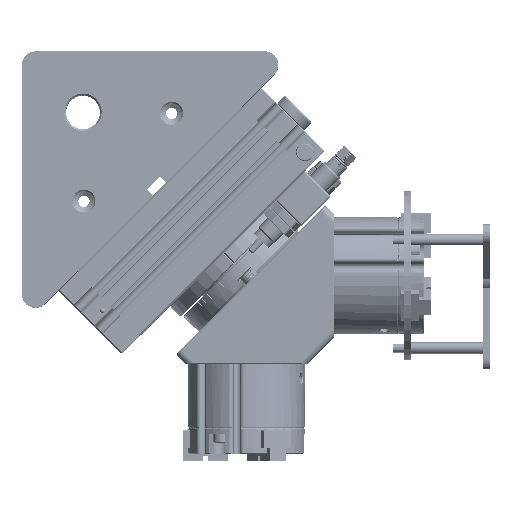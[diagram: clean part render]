
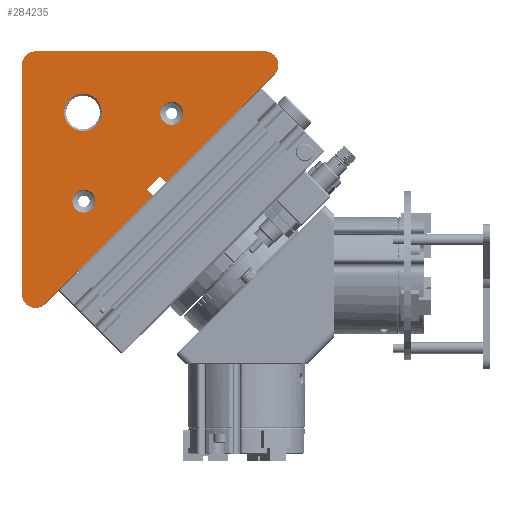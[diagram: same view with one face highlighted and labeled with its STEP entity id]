
A CAD part, top view. The second image highlights one B-rep face of the part: STEP entity #284235.
In plain terms, the highlighted planar face has unit normal (0, 0, 1).
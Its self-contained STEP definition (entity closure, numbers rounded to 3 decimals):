
#4762 = VERTEX_POINT ( 'NONE', #241218 ) ;
#8460 = ORIENTED_EDGE ( 'NONE', *, *, #31495, .T. ) ;
#8871 = VERTEX_POINT ( 'NONE', #225669 ) ;
#15241 = DIRECTION ( 'NONE',  ( -1., 0., 0. ) ) ;
#15378 = EDGE_CURVE ( 'NONE', #86031, #220438, #175074, .T. ) ;
#15417 = EDGE_CURVE ( 'NONE', #4762, #144353, #288029, .T. ) ;
#19074 = ORIENTED_EDGE ( 'NONE', *, *, #255460, .F. ) ;
#19131 = EDGE_CURVE ( 'NONE', #283635, #4762, #87533, .T. ) ;
#21474 = CARTESIAN_POINT ( 'NONE',  ( -113.485, 43.676, 1035. ) ) ;
#22587 = VERTEX_POINT ( 'NONE', #231811 ) ;
#23734 = DIRECTION ( 'NONE',  ( 0., 1., 0. ) ) ;
#24812 = CIRCLE ( 'NONE', #206723, 5.1 ) ;
#31495 = EDGE_CURVE ( 'NONE', #68292, #139739, #107208, .T. ) ;
#32216 = VECTOR ( 'NONE', #15241, 1000. ) ;
#32809 = CARTESIAN_POINT ( 'NONE',  ( -107.729, 49.432, 1035. ) ) ;
#35714 = DIRECTION ( 'NONE',  ( 0., 0., -1. ) ) ;
#35818 = VECTOR ( 'NONE', #112830, 1000. ) ;
#36669 = DIRECTION ( 'NONE',  ( 0., -1., 0. ) ) ;
#38628 = CARTESIAN_POINT ( 'NONE',  ( -171.646, 0., 1035. ) ) ;
#38637 = EDGE_LOOP ( 'NONE', ( #269370, #107997 ) ) ;
#39798 = CIRCLE ( 'NONE', #108786, 5.1 ) ;
#41000 = CARTESIAN_POINT ( 'NONE',  ( -144.195, 41.251, 1035. ) ) ;
#41929 = EDGE_CURVE ( 'NONE', #89605, #68292, #302098, .T. ) ;
#42402 = AXIS2_PLACEMENT_3D ( 'NONE', #271676, #133103, #291734 ) ;
#46675 = VECTOR ( 'NONE', #63064, 1000. ) ;
#47155 = FACE_BOUND ( 'NONE', #294731, .T. ) ;
#48817 = ORIENTED_EDGE ( 'NONE', *, *, #118070, .T. ) ;
#49645 = CARTESIAN_POINT ( 'NONE',  ( -144.195, 36.151, 1035. ) ) ;
#51164 = EDGE_LOOP ( 'NONE', ( #163300, #19074 ) ) ;
#51529 = CIRCLE ( 'NONE', #90876, 8.3 ) ;
#57163 = EDGE_CURVE ( 'NONE', #271919, #161718, #179628, .T. ) ;
#58001 = CARTESIAN_POINT ( 'NONE',  ( -107.729, 49.432, 1035. ) ) ;
#61226 = DIRECTION ( 'NONE',  ( 0., -1., 0. ) ) ;
#63039 = DIRECTION ( 'NONE',  ( 0., 0., 1. ) ) ;
#63064 = DIRECTION ( 'NONE',  ( 0.707, 0.707, 0. ) ) ;
#66804 = EDGE_CURVE ( 'NONE', #220438, #283496, #295478, .T. ) ;
#67610 = CARTESIAN_POINT ( 'NONE',  ( -161.404, -4.243, 1035. ) ) ;
#68292 = VERTEX_POINT ( 'NONE', #32809 ) ;
#70072 = CARTESIAN_POINT ( 'NONE',  ( -59.81, 97.351, 1035. ) ) ;
#76709 = AXIS2_PLACEMENT_3D ( 'NONE', #256163, #253138, #23734 ) ;
#81354 = DIRECTION ( 'NONE',  ( 0., -1., 0. ) ) ;
#81445 = CIRCLE ( 'NONE', #120495, 8.3 ) ;
#84618 = DIRECTION ( 'NONE',  ( 0., -1., 0. ) ) ;
#86031 = VERTEX_POINT ( 'NONE', #114392 ) ;
#87533 = LINE ( 'NONE', #161299, #32216 ) ;
#87641 = CARTESIAN_POINT ( 'NONE',  ( -144.195, 41.251, 1035. ) ) ;
#87764 = DIRECTION ( 'NONE',  ( -0.707, 0.707, 0. ) ) ;
#89605 = VERTEX_POINT ( 'NONE', #162848 ) ;
#90333 = CARTESIAN_POINT ( 'NONE',  ( -64.053, 101.593, 1035. ) ) ;
#90876 = AXIS2_PLACEMENT_3D ( 'NONE', #198293, #105950, #36669 ) ;
#91257 = CARTESIAN_POINT ( 'NONE',  ( -110.557, 52.26, 1035. ) ) ;
#93709 = ORIENTED_EDGE ( 'NONE', *, *, #100566, .T. ) ;
#96831 = CARTESIAN_POINT ( 'NONE',  ( -64.053, 107.593, 1035. ) ) ;
#100566 = EDGE_CURVE ( 'NONE', #257043, #89605, #294440, .T. ) ;
#102410 = VECTOR ( 'NONE', #87764, 1000. ) ;
#102595 = ORIENTED_EDGE ( 'NONE', *, *, #301938, .T. ) ;
#103679 = CARTESIAN_POINT ( 'NONE',  ( -110.557, 52.26, 1035. ) ) ;
#105950 = DIRECTION ( 'NONE',  ( 0., 0., -1. ) ) ;
#107208 = LINE ( 'NONE', #58001, #265647 ) ;
#107410 = DIRECTION ( 'NONE',  ( 0., 0., 1. ) ) ;
#107997 = ORIENTED_EDGE ( 'NONE', *, *, #57163, .F. ) ;
#108542 = CARTESIAN_POINT ( 'NONE',  ( -64.053, 101.593, 1035. ) ) ;
#108786 = AXIS2_PLACEMENT_3D ( 'NONE', #178213, #275143, #81354 ) ;
#109399 = DIRECTION ( 'NONE',  ( 0., -1., 0. ) ) ;
#109795 = VERTEX_POINT ( 'NONE', #199733 ) ;
#112830 = DIRECTION ( 'NONE',  ( 0.707, -0.707, 0. ) ) ;
#114392 = CARTESIAN_POINT ( 'NONE',  ( -171.646, 0., 1035. ) ) ;
#116469 = DIRECTION ( 'NONE',  ( 0., 0., 1. ) ) ;
#117971 = PLANE ( 'NONE',  #298655 ) ;
#118070 = EDGE_CURVE ( 'NONE', #283496, #257043, #183116, .T. ) ;
#120495 = AXIS2_PLACEMENT_3D ( 'NONE', #175749, #35714, #223477 ) ;
#124366 = ORIENTED_EDGE ( 'NONE', *, *, #253501, .T. ) ;
#133103 = DIRECTION ( 'NONE',  ( 0., 0., 1. ) ) ;
#133411 = CARTESIAN_POINT ( 'NONE',  ( -144.195, 46.351, 1035. ) ) ;
#134419 = EDGE_LOOP ( 'NONE', ( #48817, #93709, #287332, #8460, #124366, #251172, #190018, #102595, #290838, #152873 ) ) ;
#139739 = VERTEX_POINT ( 'NONE', #70072 ) ;
#144353 = VERTEX_POINT ( 'NONE', #149006 ) ;
#147410 = CIRCLE ( 'NONE', #186762, 6. ) ;
#149006 = CARTESIAN_POINT ( 'NONE',  ( -171.646, 101.593, 1035. ) ) ;
#150242 = VECTOR ( 'NONE', #242222, 1000. ) ;
#152873 = ORIENTED_EDGE ( 'NONE', *, *, #66804, .T. ) ;
#155031 = EDGE_CURVE ( 'NONE', #256000, #109795, #210907, .T. ) ;
#158265 = EDGE_CURVE ( 'NONE', #161718, #271919, #24812, .T. ) ;
#161066 = DIRECTION ( 'NONE',  ( 1., 0., 0. ) ) ;
#161299 = CARTESIAN_POINT ( 'NONE',  ( -64.053, 107.593, 1035. ) ) ;
#161718 = VERTEX_POINT ( 'NONE', #49645 ) ;
#162848 = CARTESIAN_POINT ( 'NONE',  ( -110.557, 52.26, 1035. ) ) ;
#163300 = ORIENTED_EDGE ( 'NONE', *, *, #155031, .F. ) ;
#167026 = CARTESIAN_POINT ( 'NONE',  ( -105.304, 75.042, 1035. ) ) ;
#174269 = CARTESIAN_POINT ( 'NONE',  ( -116.313, 46.504, 1035. ) ) ;
#175074 = CIRCLE ( 'NONE', #42402, 6. ) ;
#175749 = CARTESIAN_POINT ( 'NONE',  ( -144.646, 80.593, 1035. ) ) ;
#178213 = CARTESIAN_POINT ( 'NONE',  ( -105.304, 80.142, 1035. ) ) ;
#179628 = CIRCLE ( 'NONE', #218996, 5.1 ) ;
#183116 = LINE ( 'NONE', #229337, #102410 ) ;
#186762 = AXIS2_PLACEMENT_3D ( 'NONE', #108542, #202397, #273181 ) ;
#187116 = DIRECTION ( 'NONE',  ( 0., -1., 0. ) ) ;
#190018 = ORIENTED_EDGE ( 'NONE', *, *, #15417, .T. ) ;
#198293 = CARTESIAN_POINT ( 'NONE',  ( -144.646, 80.593, 1035. ) ) ;
#199037 = VECTOR ( 'NONE', #109399, 1000. ) ;
#199733 = CARTESIAN_POINT ( 'NONE',  ( -105.304, 85.242, 1035. ) ) ;
#201057 = DIRECTION ( 'NONE',  ( 0.707, 0.707, 0. ) ) ;
#201260 = CARTESIAN_POINT ( 'NONE',  ( -105.304, 80.142, 1035. ) ) ;
#202397 = DIRECTION ( 'NONE',  ( 0., 0., 1. ) ) ;
#203263 = LINE ( 'NONE', #38628, #199037 ) ;
#206723 = AXIS2_PLACEMENT_3D ( 'NONE', #41000, #277969, #187116 ) ;
#209104 = EDGE_CURVE ( 'NONE', #22587, #8871, #81445, .T. ) ;
#210907 = CIRCLE ( 'NONE', #304320, 5.1 ) ;
#211848 = FACE_BOUND ( 'NONE', #38637, .T. ) ;
#218996 = AXIS2_PLACEMENT_3D ( 'NONE', #87641, #63039, #84618 ) ;
#220438 = VERTEX_POINT ( 'NONE', #291960 ) ;
#223477 = DIRECTION ( 'NONE',  ( 0., -1., 0. ) ) ;
#225669 = CARTESIAN_POINT ( 'NONE',  ( -144.646, 72.293, 1035. ) ) ;
#229337 = CARTESIAN_POINT ( 'NONE',  ( -113.485, 43.676, 1035. ) ) ;
#231811 = CARTESIAN_POINT ( 'NONE',  ( -144.646, 88.893, 1035. ) ) ;
#234942 = FACE_BOUND ( 'NONE', #51164, .T. ) ;
#236464 = FACE_OUTER_BOUND ( 'NONE', #134419, .T. ) ;
#241218 = CARTESIAN_POINT ( 'NONE',  ( -165.646, 107.593, 1035. ) ) ;
#242222 = DIRECTION ( 'NONE',  ( 0.707, 0.707, 0. ) ) ;
#251172 = ORIENTED_EDGE ( 'NONE', *, *, #19131, .T. ) ;
#253138 = DIRECTION ( 'NONE',  ( 0., 0., 1. ) ) ;
#253501 = EDGE_CURVE ( 'NONE', #139739, #283635, #147410, .T. ) ;
#255460 = EDGE_CURVE ( 'NONE', #109795, #256000, #39798, .T. ) ;
#256000 = VERTEX_POINT ( 'NONE', #167026 ) ;
#256163 = CARTESIAN_POINT ( 'NONE',  ( -165.646, 101.593, 1035. ) ) ;
#257043 = VERTEX_POINT ( 'NONE', #174269 ) ;
#265647 = VECTOR ( 'NONE', #201057, 1000. ) ;
#269370 = ORIENTED_EDGE ( 'NONE', *, *, #158265, .F. ) ;
#271676 = CARTESIAN_POINT ( 'NONE',  ( -165.646, 0., 1035. ) ) ;
#271919 = VERTEX_POINT ( 'NONE', #133411 ) ;
#273181 = DIRECTION ( 'NONE',  ( 0., -1., 0. ) ) ;
#275143 = DIRECTION ( 'NONE',  ( 0., 0., 1. ) ) ;
#275334 = EDGE_CURVE ( 'NONE', #8871, #22587, #51529, .T. ) ;
#276962 = ORIENTED_EDGE ( 'NONE', *, *, #209104, .T. ) ;
#277969 = DIRECTION ( 'NONE',  ( 0., 0., 1. ) ) ;
#283496 = VERTEX_POINT ( 'NONE', #21474 ) ;
#283635 = VERTEX_POINT ( 'NONE', #96831 ) ;
#284235 = ADVANCED_FACE ( 'NONE', ( #236464, #47155, #211848, #234942 ), #117971, .T. ) ;
#287332 = ORIENTED_EDGE ( 'NONE', *, *, #41929, .T. ) ;
#287711 = ORIENTED_EDGE ( 'NONE', *, *, #275334, .T. ) ;
#288029 = CIRCLE ( 'NONE', #76709, 6. ) ;
#290838 = ORIENTED_EDGE ( 'NONE', *, *, #15378, .T. ) ;
#291734 = DIRECTION ( 'NONE',  ( 0., -1., 0. ) ) ;
#291960 = CARTESIAN_POINT ( 'NONE',  ( -161.404, -4.243, 1035. ) ) ;
#294440 = LINE ( 'NONE', #103679, #150242 ) ;
#294731 = EDGE_LOOP ( 'NONE', ( #287711, #276962 ) ) ;
#295478 = LINE ( 'NONE', #67610, #46675 ) ;
#298655 = AXIS2_PLACEMENT_3D ( 'NONE', #90333, #116469, #161066 ) ;
#301938 = EDGE_CURVE ( 'NONE', #144353, #86031, #203263, .T. ) ;
#302098 = LINE ( 'NONE', #91257, #35818 ) ;
#304320 = AXIS2_PLACEMENT_3D ( 'NONE', #201260, #107410, #61226 ) ;
